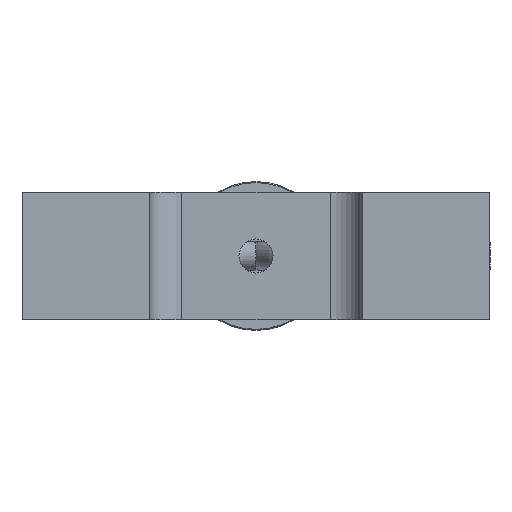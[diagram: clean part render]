
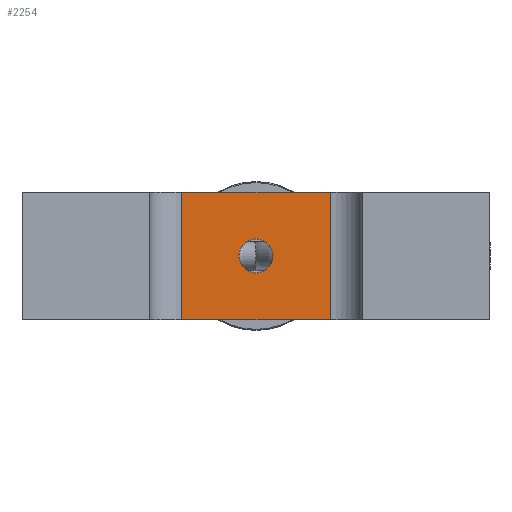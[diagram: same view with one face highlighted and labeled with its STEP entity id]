
A CAD part, left-side view. The second image highlights one B-rep face of the part: STEP entity #2254.
In plain terms, the highlighted planar face has unit normal (-1, 0, 0).
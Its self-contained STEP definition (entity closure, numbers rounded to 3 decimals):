
#101=LINE($,#3991,#187);
#103=LINE($,#3997,#189);
#104=LINE($,#3999,#190);
#105=LINE($,#4000,#191);
#187=VECTOR($,#3205,12.);
#189=VECTOR($,#3211,14.);
#190=VECTOR($,#3212,12.);
#191=VECTOR($,#3213,14.);
#294=PLANE($,#2560);
#388=FACE_BOUND($,#773,.T.);
#389=FACE_BOUND($,#774,.T.);
#773=EDGE_LOOP($,(#1817));
#774=EDGE_LOOP($,(#1818,#1819,#1820,#1821));
#933=CIRCLE($,#2549,1.6);
#1109=VERTEX_POINT($,#3972);
#1116=VERTEX_POINT($,#3988);
#1117=VERTEX_POINT($,#3990);
#1119=VERTEX_POINT($,#3996);
#1120=VERTEX_POINT($,#3998);
#1349=EDGE_CURVE($,#1109,#1109,#933,.T.);
#1356=EDGE_CURVE($,#1116,#1117,#101,.T.);
#1359=EDGE_CURVE($,#1116,#1119,#103,.T.);
#1360=EDGE_CURVE($,#1120,#1119,#104,.T.);
#1361=EDGE_CURVE($,#1120,#1117,#105,.T.);
#1817=ORIENTED_EDGE($,*,*,#1349,.T.);
#1818=ORIENTED_EDGE($,*,*,#1356,.F.);
#1819=ORIENTED_EDGE($,*,*,#1359,.T.);
#1820=ORIENTED_EDGE($,*,*,#1360,.F.);
#1821=ORIENTED_EDGE($,*,*,#1361,.T.);
#2254=ADVANCED_FACE($,(#388,#389),#294,.T.);
#2549=AXIS2_PLACEMENT_3D($,#3973,#3185,#3186);
#2560=AXIS2_PLACEMENT_3D($,#3995,#3209,#3210);
#3185=DIRECTION('center_axis',(1.,0.,0.));
#3186=DIRECTION('ref_axis',(0.,0.,-1.));
#3205=DIRECTION($,(0.,0.,1.));
#3209=DIRECTION('center_axis',(-1.,0.,0.));
#3210=DIRECTION('ref_axis',(0.,0.,1.));
#3211=DIRECTION($,(0.,-1.,0.));
#3212=DIRECTION($,(0.,0.,-1.));
#3213=DIRECTION($,(0.,1.,0.));
#3972=CARTESIAN_POINT('',(37.,0.,7.6));
#3973=CARTESIAN_POINT('Origin',(37.,0.,6.));
#3988=CARTESIAN_POINT('',(37.,7.,0.));
#3990=CARTESIAN_POINT('',(37.,7.,12.));
#3991=CARTESIAN_POINT($,(37.,7.,0.));
#3995=CARTESIAN_POINT('Origin',(37.,-10.,0.));
#3996=CARTESIAN_POINT('',(37.,-7.,0.));
#3997=CARTESIAN_POINT($,(37.,10.,0.));
#3998=CARTESIAN_POINT('',(37.,-7.,12.));
#3999=CARTESIAN_POINT($,(37.,-7.,0.));
#4000=CARTESIAN_POINT($,(37.,10.,12.));
